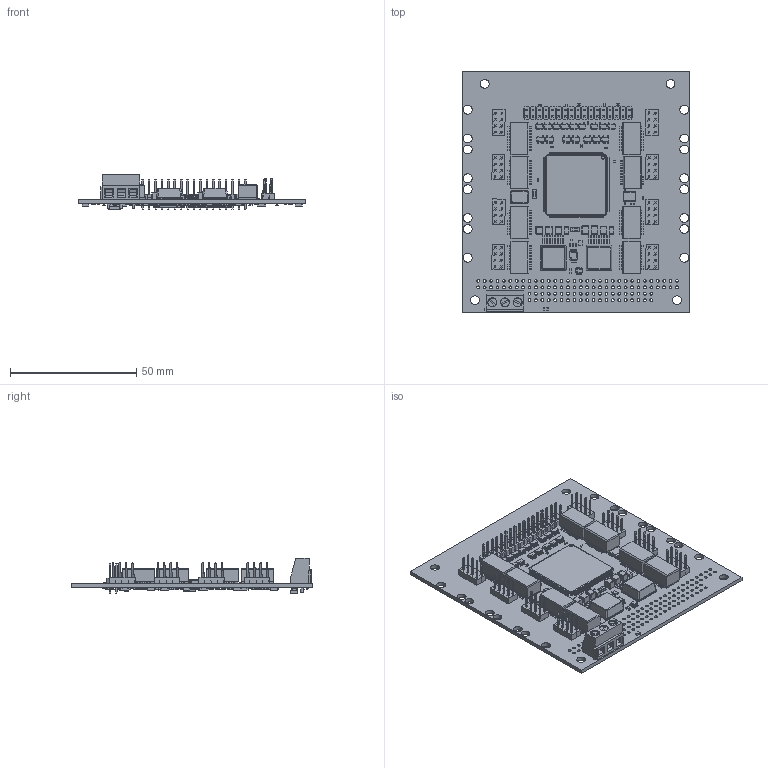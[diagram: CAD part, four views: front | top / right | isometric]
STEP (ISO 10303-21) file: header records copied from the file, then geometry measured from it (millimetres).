
FILE_DESCRIPTION (( 'STEP AP214' ), '1' );
FILE_NAME ('ESW-104-02.STEP', '2024-09-10T10:40:00', ( '' ), ( '' ), 'SwSTEP 2.0', 'SolidWorks 2022', '' );
FILE_SCHEMA (( 'AUTOMOTIVE_DESIGN' ));
Length unit declared in the file: millimetre
Products named in the file (1): ESW-104-02
Bounding box: 90.17 x 95.89 x 13.92 mm (x, y, z)
Surface area: 29315.4 mm2 (no closed solid volume)
Topology: 0 solids, 1693 shells, 7600 faces, 28130 edges, 21945 vertices
Faces by surface type: plane 6534, cylinder 1026, bspline 19, sphere 14, torus 7
Full cylindrical faces by diameter (mm): 0.4 x16, 1 x28, 1.09 x104, 1.57 x1, 1.62 x1, 1.65 x2, 1.8 x3, 3.5 x20, 3.6 x3
Entity records: 374973 total; most frequent: CARTESIAN_POINT 61504, DIRECTION 46250, ORIENTED_EDGE 37685, EDGE_CURVE 27942, VECTOR 22732, LINE 22732, VERTEX_POINT 21943, AXIS2_PLACEMENT_3D 11759
